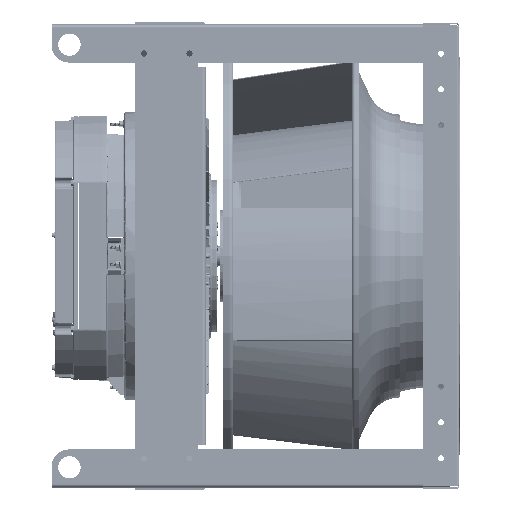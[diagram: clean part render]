
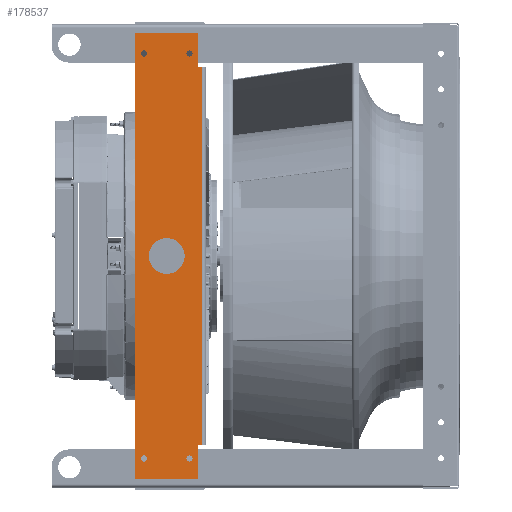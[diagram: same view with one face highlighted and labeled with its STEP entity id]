
A CAD part, front view. The second image highlights one B-rep face of the part: STEP entity #178537.
In plain terms, the highlighted planar face has unit normal (0, -1, 0) as drawn and (0, 0, 1) by its records, which use the part's own axes.
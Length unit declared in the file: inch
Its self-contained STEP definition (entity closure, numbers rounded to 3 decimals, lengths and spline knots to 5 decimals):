
#589 = CIRCLE ( 'NONE', #15602, 1. ) ;
#7260 = ORIENTED_EDGE ( 'NONE', *, *, #78694, .T. ) ;
#8052 = ORIENTED_EDGE ( 'NONE', *, *, #300507, .F. ) ;
#12131 = CARTESIAN_POINT ( 'NONE',  ( 11.305, 1.27, 0.135 ) ) ;
#12644 = DIRECTION ( 'NONE',  ( -1., 0., 0. ) ) ;
#13620 = EDGE_CURVE ( 'NONE', #152382, #61314, #69804, .T. ) ;
#15602 = AXIS2_PLACEMENT_3D ( 'NONE', #154273, #272255, #198345 ) ;
#16885 = EDGE_LOOP ( 'NONE', ( #72298 ) ) ;
#17563 = DIRECTION ( 'NONE',  ( -1., 0., 0. ) ) ;
#22646 = VERTEX_POINT ( 'NONE', #263323 ) ;
#26656 = DIRECTION ( 'NONE',  ( 0., 0., 1. ) ) ;
#33393 = AXIS2_PLACEMENT_3D ( 'NONE', #146239, #26656, #122656 ) ;
#39865 = CARTESIAN_POINT ( 'NONE',  ( -11.305, 1.27, 0.135 ) ) ;
#40925 = DIRECTION ( 'NONE',  ( 0., 0., -1. ) ) ;
#42728 = VECTOR ( 'NONE', #76001, 39.37008 ) ;
#46754 = ORIENTED_EDGE ( 'NONE', *, *, #13620, .T. ) ;
#47484 = EDGE_LOOP ( 'NONE', ( #8052 ) ) ;
#49791 = AXIS2_PLACEMENT_3D ( 'NONE', #166974, #93071, #17563 ) ;
#53489 = EDGE_CURVE ( 'NONE', #294661, #294661, #86562, .T. ) ;
#57696 = ORIENTED_EDGE ( 'NONE', *, *, #199542, .F. ) ;
#59149 = LINE ( 'NONE', #178674, #307301 ) ;
#61314 = VERTEX_POINT ( 'NONE', #228966 ) ;
#62120 = LINE ( 'NONE', #250939, #105539 ) ;
#65215 = DIRECTION ( 'NONE',  ( 0., -1., 0. ) ) ;
#65474 = CARTESIAN_POINT ( 'NONE',  ( -10.555, 1.77, 0.135 ) ) ;
#69804 = LINE ( 'NONE', #214498, #42728 ) ;
#70913 = LINE ( 'NONE', #163784, #219533 ) ;
#72298 = ORIENTED_EDGE ( 'NONE', *, *, #53489, .F. ) ;
#76001 = DIRECTION ( 'NONE',  ( -1., 0., 0. ) ) ;
#78694 = EDGE_CURVE ( 'NONE', #61314, #105307, #208397, .T. ) ;
#79196 = CARTESIAN_POINT ( 'NONE',  ( -11.133, 1.27, 0.135 ) ) ;
#81206 = DIRECTION ( 'NONE',  ( 0., -1., 0. ) ) ;
#86562 = CIRCLE ( 'NONE', #197037, 0.172 ) ;
#93071 = DIRECTION ( 'NONE',  ( 0., 0., 1. ) ) ;
#95184 = CIRCLE ( 'NONE', #49791, 0.172 ) ;
#101217 = VERTEX_POINT ( 'NONE', #264882 ) ;
#104308 = VECTOR ( 'NONE', #12644, 39.37008 ) ;
#105307 = VERTEX_POINT ( 'NONE', #232512 ) ;
#105539 = VECTOR ( 'NONE', #65215, 39.37008 ) ;
#109659 = DIRECTION ( 'NONE',  ( -1., 0., 0. ) ) ;
#111760 = FACE_BOUND ( 'NONE', #213699, .T. ) ;
#119946 = EDGE_CURVE ( 'NONE', #293998, #258256, #130716, .T. ) ;
#121575 = VECTOR ( 'NONE', #307538, 39.37008 ) ;
#122656 = DIRECTION ( 'NONE',  ( 1., 0., 0. ) ) ;
#126505 = ORIENTED_EDGE ( 'NONE', *, *, #295606, .T. ) ;
#126587 = CARTESIAN_POINT ( 'NONE',  ( 10.555, 1.77, 0.135 ) ) ;
#130716 = LINE ( 'NONE', #273831, #104308 ) ;
#133856 = VECTOR ( 'NONE', #238466, 39.37008 ) ;
#133868 = FACE_BOUND ( 'NONE', #225723, .T. ) ;
#134714 = CIRCLE ( 'NONE', #204986, 0.172 ) ;
#135848 = DIRECTION ( 'NONE',  ( 0., 0., 1. ) ) ;
#145445 = CARTESIAN_POINT ( 'NONE',  ( 10.555, 1.9775, 0.135 ) ) ;
#146239 = CARTESIAN_POINT ( 'NONE',  ( 11.305, -1.27, 0.135 ) ) ;
#152382 = VERTEX_POINT ( 'NONE', #65474 ) ;
#154273 = CARTESIAN_POINT ( 'NONE',  ( 0., 0., 0.135 ) ) ;
#156572 = CARTESIAN_POINT ( 'NONE',  ( 11.133, 1.27, 0.135 ) ) ;
#157634 = EDGE_CURVE ( 'NONE', #22646, #22646, #95184, .T. ) ;
#158205 = VECTOR ( 'NONE', #164349, 39.37008 ) ;
#159646 = CARTESIAN_POINT ( 'NONE',  ( 11.477, -1.27, 0.135 ) ) ;
#161369 = EDGE_CURVE ( 'NONE', #101217, #101217, #589, .T. ) ;
#162023 = ORIENTED_EDGE ( 'NONE', *, *, #119946, .T. ) ;
#163784 = CARTESIAN_POINT ( 'NONE',  ( 12.465, -1.77, 0.135 ) ) ;
#164349 = DIRECTION ( 'NONE',  ( 0., -1., 0. ) ) ;
#165979 = LINE ( 'NONE', #191075, #121575 ) ;
#166974 = CARTESIAN_POINT ( 'NONE',  ( -11.305, -1.27, 0.135 ) ) ;
#167705 = EDGE_CURVE ( 'NONE', #258256, #152382, #59149, .T. ) ;
#173419 = AXIS2_PLACEMENT_3D ( 'NONE', #232860, #40925, #302095 ) ;
#175728 = ORIENTED_EDGE ( 'NONE', *, *, #157634, .F. ) ;
#177559 = ORIENTED_EDGE ( 'NONE', *, *, #286980, .F. ) ;
#178537 = ADVANCED_FACE ( 'NONE', ( #133868, #256451, #111760, #207694, #187200, #185644 ), #303647, .F. ) ;
#178674 = CARTESIAN_POINT ( 'NONE',  ( -10.555, 1.9775, 0.135 ) ) ;
#185644 = FACE_BOUND ( 'NONE', #47484, .T. ) ;
#187200 = FACE_BOUND ( 'NONE', #279350, .T. ) ;
#189705 = CARTESIAN_POINT ( 'NONE',  ( -12.465, 1.77, 0.135 ) ) ;
#191075 = CARTESIAN_POINT ( 'NONE',  ( -12.465, -1.77, 0.135 ) ) ;
#197037 = AXIS2_PLACEMENT_3D ( 'NONE', #39865, #135848, #231791 ) ;
#198345 = DIRECTION ( 'NONE',  ( 1., 0., 0. ) ) ;
#199542 = EDGE_CURVE ( 'NONE', #293998, #241142, #62120, .T. ) ;
#204986 = AXIS2_PLACEMENT_3D ( 'NONE', #12131, #257442, #109659 ) ;
#207694 = FACE_BOUND ( 'NONE', #16885, .T. ) ;
#208397 = LINE ( 'NONE', #209967, #158205 ) ;
#209967 = CARTESIAN_POINT ( 'NONE',  ( -12.465, -1.77, 0.135 ) ) ;
#211712 = ORIENTED_EDGE ( 'NONE', *, *, #222227, .T. ) ;
#213699 = EDGE_LOOP ( 'NONE', ( #175728 ) ) ;
#214498 = CARTESIAN_POINT ( 'NONE',  ( -12.465, 1.77, 0.135 ) ) ;
#219533 = VECTOR ( 'NONE', #310003, 39.37008 ) ;
#222227 = EDGE_CURVE ( 'NONE', #105307, #265438, #165979, .T. ) ;
#225723 = EDGE_LOOP ( 'NONE', ( #289833 ) ) ;
#228966 = CARTESIAN_POINT ( 'NONE',  ( -12.465, 1.77, 0.135 ) ) ;
#231791 = DIRECTION ( 'NONE',  ( 1., 0., 0. ) ) ;
#232512 = CARTESIAN_POINT ( 'NONE',  ( -12.465, -1.77, 0.135 ) ) ;
#232860 = CARTESIAN_POINT ( 'NONE',  ( 0., 0., 0.135 ) ) ;
#233550 = VERTEX_POINT ( 'NONE', #159646 ) ;
#234143 = CIRCLE ( 'NONE', #33393, 0.172 ) ;
#238466 = DIRECTION ( 'NONE',  ( -1., 0., 0. ) ) ;
#239051 = ORIENTED_EDGE ( 'NONE', *, *, #255101, .T. ) ;
#241142 = VERTEX_POINT ( 'NONE', #126587 ) ;
#245960 = CARTESIAN_POINT ( 'NONE',  ( -10.555, 1.9775, 0.135 ) ) ;
#250890 = VERTEX_POINT ( 'NONE', #291847 ) ;
#250939 = CARTESIAN_POINT ( 'NONE',  ( 10.555, 1.9775, 0.135 ) ) ;
#250961 = VERTEX_POINT ( 'NONE', #156572 ) ;
#255101 = EDGE_CURVE ( 'NONE', #265438, #250890, #70913, .T. ) ;
#256451 = FACE_OUTER_BOUND ( 'NONE', #261674, .T. ) ;
#257442 = DIRECTION ( 'NONE',  ( 0., 0., 1. ) ) ;
#258256 = VERTEX_POINT ( 'NONE', #245960 ) ;
#261674 = EDGE_LOOP ( 'NONE', ( #7260, #211712, #239051, #126505, #57696, #162023, #298243, #46754 ) ) ;
#262116 = CARTESIAN_POINT ( 'NONE',  ( 12.465, -1.77, 0.135 ) ) ;
#263323 = CARTESIAN_POINT ( 'NONE',  ( -11.477, -1.27, 0.135 ) ) ;
#264882 = CARTESIAN_POINT ( 'NONE',  ( 1., 0., 0.135 ) ) ;
#265438 = VERTEX_POINT ( 'NONE', #262116 ) ;
#272255 = DIRECTION ( 'NONE',  ( 0., 0., 1. ) ) ;
#273831 = CARTESIAN_POINT ( 'NONE',  ( 10.555, 1.9775, 0.135 ) ) ;
#279350 = EDGE_LOOP ( 'NONE', ( #177559 ) ) ;
#282541 = LINE ( 'NONE', #189705, #133856 ) ;
#286980 = EDGE_CURVE ( 'NONE', #233550, #233550, #234143, .T. ) ;
#289833 = ORIENTED_EDGE ( 'NONE', *, *, #161369, .F. ) ;
#291847 = CARTESIAN_POINT ( 'NONE',  ( 12.465, 1.77, 0.135 ) ) ;
#293998 = VERTEX_POINT ( 'NONE', #145445 ) ;
#294661 = VERTEX_POINT ( 'NONE', #79196 ) ;
#295606 = EDGE_CURVE ( 'NONE', #250890, #241142, #282541, .T. ) ;
#298243 = ORIENTED_EDGE ( 'NONE', *, *, #167705, .T. ) ;
#300507 = EDGE_CURVE ( 'NONE', #250961, #250961, #134714, .T. ) ;
#302095 = DIRECTION ( 'NONE',  ( -1., 0., 0. ) ) ;
#303647 = PLANE ( 'NONE',  #173419 ) ;
#307301 = VECTOR ( 'NONE', #81206, 39.37008 ) ;
#307538 = DIRECTION ( 'NONE',  ( 1., 0., 0. ) ) ;
#310003 = DIRECTION ( 'NONE',  ( 0., 1., 0. ) ) ;
